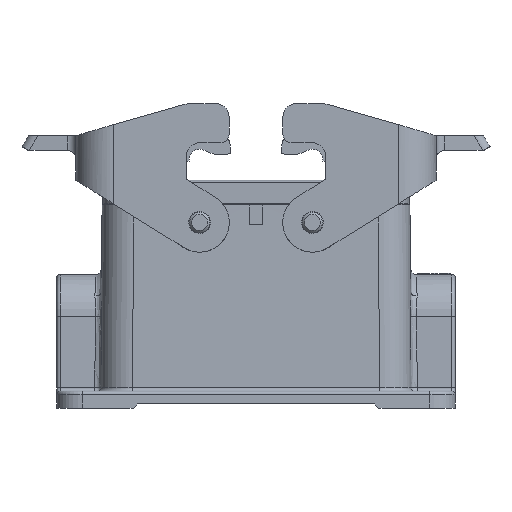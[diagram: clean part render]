
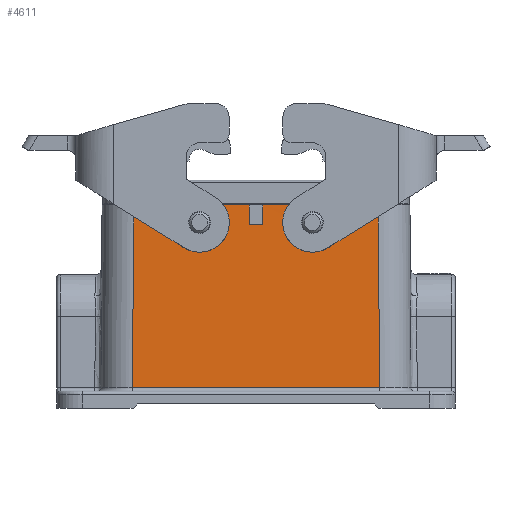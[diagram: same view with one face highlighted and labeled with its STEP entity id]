
A CAD part, front view. The second image highlights one B-rep face of the part: STEP entity #4611.
In plain terms, the highlighted planar face has unit normal (0, -1, 0.007).
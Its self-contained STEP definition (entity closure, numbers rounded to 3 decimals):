
#2217=B_SPLINE_CURVE_WITH_KNOTS('',3,(#16396,#16397,#16398,#16399,#16400,
#16401,#16402,#16403,#16404,#16405),.UNSPECIFIED.,.F.,.F.,(4,2,2,2,4),(0.,
0.25,0.5,0.75,1.),.UNSPECIFIED.);
#2218=B_SPLINE_CURVE_WITH_KNOTS('',3,(#16413,#16414,#16415,#16416,#16417,
#16418,#16419,#16420,#16421,#16422),.UNSPECIFIED.,.F.,.F.,(4,2,2,2,4),(0.,
0.25,0.5,0.75,1.),.UNSPECIFIED.);
#2298=ELLIPSE('',#12247,3.5,3.5);
#2299=ELLIPSE('',#12248,3.5,3.5);
#2430=LINE('',#16389,#3366);
#2431=LINE('',#16394,#3367);
#2432=LINE('',#16406,#3368);
#2433=LINE('',#16411,#3369);
#2434=LINE('',#16423,#3370);
#2435=LINE('',#16426,#3371);
#2436=LINE('',#16428,#3372);
#2437=LINE('',#16430,#3373);
#2438=LINE('',#16432,#3374);
#2439=LINE('',#16434,#3375);
#2440=LINE('',#16436,#3376);
#2441=LINE('',#16438,#3377);
#3366=VECTOR('',#13318,1.);
#3367=VECTOR('',#13321,1.);
#3368=VECTOR('',#13322,1.);
#3369=VECTOR('',#13325,1.);
#3370=VECTOR('',#13326,1.);
#3371=VECTOR('',#13327,1.);
#3372=VECTOR('',#13328,1.);
#3373=VECTOR('',#13329,1.);
#3374=VECTOR('',#13330,1.);
#3375=VECTOR('',#13331,1.);
#3376=VECTOR('',#13332,1.);
#3377=VECTOR('',#13333,1.);
#4299=PLANE('',#12249);
#4611=ADVANCED_FACE('',(#5427,#5428,#5429),#4299,.T.);
#5427=FACE_BOUND('',#5640,.T.);
#5428=FACE_BOUND('',#5641,.T.);
#5429=FACE_BOUND('',#5642,.T.);
#5640=EDGE_LOOP('',(#6365,#6366,#6367,#6368));
#5641=EDGE_LOOP('',(#6369,#6370,#6371,#6372));
#5642=EDGE_LOOP('',(#6373,#6374,#6375,#6376,#6377,#6378,#6379,#6380));
#6365=ORIENTED_EDGE('',*,*,#10377,.F.);
#6366=ORIENTED_EDGE('',*,*,#10378,.F.);
#6367=ORIENTED_EDGE('',*,*,#10379,.F.);
#6368=ORIENTED_EDGE('',*,*,#10380,.F.);
#6369=ORIENTED_EDGE('',*,*,#10381,.F.);
#6370=ORIENTED_EDGE('',*,*,#10382,.F.);
#6371=ORIENTED_EDGE('',*,*,#10383,.F.);
#6372=ORIENTED_EDGE('',*,*,#10384,.F.);
#6373=ORIENTED_EDGE('',*,*,#10385,.T.);
#6374=ORIENTED_EDGE('',*,*,#10386,.T.);
#6375=ORIENTED_EDGE('',*,*,#10387,.T.);
#6376=ORIENTED_EDGE('',*,*,#10388,.T.);
#6377=ORIENTED_EDGE('',*,*,#10389,.F.);
#6378=ORIENTED_EDGE('',*,*,#10390,.T.);
#6379=ORIENTED_EDGE('',*,*,#10391,.F.);
#6380=ORIENTED_EDGE('',*,*,#10392,.T.);
#9381=VERTEX_POINT('',#16390);
#9382=VERTEX_POINT('',#16391);
#9383=VERTEX_POINT('',#16393);
#9384=VERTEX_POINT('',#16395);
#9385=VERTEX_POINT('',#16407);
#9386=VERTEX_POINT('',#16408);
#9387=VERTEX_POINT('',#16410);
#9388=VERTEX_POINT('',#16412);
#9389=VERTEX_POINT('',#16424);
#9390=VERTEX_POINT('',#16425);
#9391=VERTEX_POINT('',#16427);
#9392=VERTEX_POINT('',#16429);
#9393=VERTEX_POINT('',#16431);
#9394=VERTEX_POINT('',#16433);
#9395=VERTEX_POINT('',#16435);
#9396=VERTEX_POINT('',#16437);
#10377=EDGE_CURVE('',#9381,#9382,#2430,.T.);
#10378=EDGE_CURVE('',#9383,#9381,#2298,.T.);
#10379=EDGE_CURVE('',#9384,#9383,#2431,.T.);
#10380=EDGE_CURVE('',#9382,#9384,#2217,.T.);
#10381=EDGE_CURVE('',#9385,#9386,#2432,.T.);
#10382=EDGE_CURVE('',#9387,#9385,#2299,.T.);
#10383=EDGE_CURVE('',#9388,#9387,#2433,.T.);
#10384=EDGE_CURVE('',#9386,#9388,#2218,.T.);
#10385=EDGE_CURVE('',#9389,#9390,#2434,.T.);
#10386=EDGE_CURVE('',#9390,#9391,#2435,.T.);
#10387=EDGE_CURVE('',#9391,#9392,#2436,.T.);
#10388=EDGE_CURVE('',#9392,#9393,#2437,.T.);
#10389=EDGE_CURVE('',#9394,#9393,#2438,.T.);
#10390=EDGE_CURVE('',#9394,#9395,#2439,.T.);
#10391=EDGE_CURVE('',#9396,#9395,#2440,.T.);
#10392=EDGE_CURVE('',#9396,#9389,#2441,.T.);
#12247=AXIS2_PLACEMENT_3D('',#16392,#13319,#13320);
#12248=AXIS2_PLACEMENT_3D('',#16409,#13323,#13324);
#12249=AXIS2_PLACEMENT_3D('',#16439,#13334,#13335);
#13318=DIRECTION('',(-1.,0.,0.));
#13319=DIRECTION('',(0.,-1.,0.007));
#13320=DIRECTION('',(0.,-0.007,-1.));
#13321=DIRECTION('',(-1.,0.,0.));
#13322=DIRECTION('',(-1.,0.,0.));
#13323=DIRECTION('',(0.,-1.,0.007));
#13324=DIRECTION('',(0.,-0.007,-1.));
#13325=DIRECTION('',(-1.,0.,0.));
#13326=DIRECTION('',(-0.009,-0.007,-1.));
#13327=DIRECTION('',(1.,0.,0.));
#13328=DIRECTION('',(-0.009,0.007,1.));
#13329=DIRECTION('',(-1.,0.,0.));
#13330=DIRECTION('',(0.,0.007,1.));
#13331=DIRECTION('',(-1.,0.,0.));
#13332=DIRECTION('',(0.,-0.007,-1.));
#13333=DIRECTION('',(-1.,0.,0.));
#13334=DIRECTION('',(0.,-1.,0.007));
#13335=DIRECTION('',(0.,-0.007,-1.));
#16389=CARTESIAN_POINT('',(57.,-21.531,1.55));
#16390=CARTESIAN_POINT('',(16.8,-21.531,1.55));
#16391=CARTESIAN_POINT('',(14.775,-21.531,1.55));
#16392=CARTESIAN_POINT('',(13.3,-21.531,1.55));
#16393=CARTESIAN_POINT('',(9.8,-21.531,1.55));
#16394=CARTESIAN_POINT('',(57.,-21.531,1.55));
#16395=CARTESIAN_POINT('',(11.825,-21.531,1.55));
#16396=CARTESIAN_POINT('',(14.775,-21.531,1.55));
#16397=CARTESIAN_POINT('',(14.775,-21.531,1.957));
#16398=CARTESIAN_POINT('',(14.631,-21.531,2.305));
#16399=CARTESIAN_POINT('',(14.055,-21.531,2.881));
#16400=CARTESIAN_POINT('',(13.707,-21.531,3.025));
#16401=CARTESIAN_POINT('',(12.893,-21.531,3.025));
#16402=CARTESIAN_POINT('',(12.545,-21.531,2.881));
#16403=CARTESIAN_POINT('',(11.969,-21.531,2.305));
#16404=CARTESIAN_POINT('',(11.825,-21.531,1.957));
#16405=CARTESIAN_POINT('',(11.825,-21.531,1.55));
#16406=CARTESIAN_POINT('',(57.,-21.531,1.55));
#16407=CARTESIAN_POINT('',(-9.8,-21.531,1.55));
#16408=CARTESIAN_POINT('',(-11.825,-21.531,1.55));
#16409=CARTESIAN_POINT('',(-13.3,-21.531,1.55));
#16410=CARTESIAN_POINT('',(-16.8,-21.531,1.55));
#16411=CARTESIAN_POINT('',(57.,-21.531,1.55));
#16412=CARTESIAN_POINT('',(-14.775,-21.531,1.55));
#16413=CARTESIAN_POINT('',(-11.825,-21.531,1.55));
#16414=CARTESIAN_POINT('',(-11.825,-21.531,1.957));
#16415=CARTESIAN_POINT('',(-11.969,-21.531,2.305));
#16416=CARTESIAN_POINT('',(-12.545,-21.531,2.881));
#16417=CARTESIAN_POINT('',(-12.893,-21.531,3.025));
#16418=CARTESIAN_POINT('',(-13.707,-21.531,3.025));
#16419=CARTESIAN_POINT('',(-14.055,-21.531,2.881));
#16420=CARTESIAN_POINT('',(-14.631,-21.531,2.305));
#16421=CARTESIAN_POINT('',(-14.775,-21.531,1.957));
#16422=CARTESIAN_POINT('',(-14.775,-21.531,1.55));
#16423=CARTESIAN_POINT('',(-29.169,-21.82,-37.515));
#16424=CARTESIAN_POINT('',(-28.8,-21.5,5.7));
#16425=CARTESIAN_POINT('',(-29.168,-21.819,-37.456));
#16426=CARTESIAN_POINT('',(29.175,-21.819,-37.456));
#16427=CARTESIAN_POINT('',(29.168,-21.819,-37.456));
#16428=CARTESIAN_POINT('',(29.177,-21.827,-38.487));
#16429=CARTESIAN_POINT('',(28.8,-21.5,5.7));
#16430=CARTESIAN_POINT('',(57.,-21.5,5.7));
#16431=CARTESIAN_POINT('',(1.6,-21.5,5.7));
#16432=CARTESIAN_POINT('',(1.6,-21.825,-38.25));
#16433=CARTESIAN_POINT('',(1.6,-21.535,1.));
#16434=CARTESIAN_POINT('',(57.,-21.535,1.));
#16435=CARTESIAN_POINT('',(-1.6,-21.535,1.));
#16436=CARTESIAN_POINT('',(-1.6,-21.825,-38.25));
#16437=CARTESIAN_POINT('',(-1.6,-21.5,5.7));
#16438=CARTESIAN_POINT('',(57.,-21.5,5.7));
#16439=CARTESIAN_POINT('',(57.,-21.825,-38.25));
